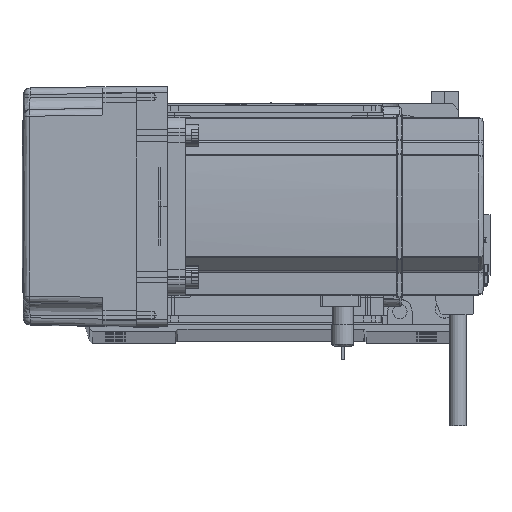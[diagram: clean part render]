
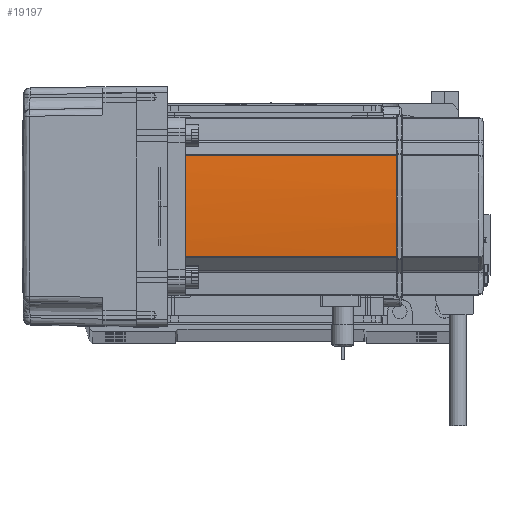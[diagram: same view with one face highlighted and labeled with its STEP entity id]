
A CAD part, top view. The second image highlights one B-rep face of the part: STEP entity #19197.
In plain terms, the highlighted cylindrical face has radius 270 mm (diameter 540 mm), a partial arc.
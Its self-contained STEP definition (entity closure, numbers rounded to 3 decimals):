
#304 = VERTEX_POINT ( 'NONE', #36826 ) ;
#790 = VECTOR ( 'NONE', #34278, 1000. ) ;
#1400 = CARTESIAN_POINT ( 'NONE',  ( -230., 0., 39. ) ) ;
#2841 = DIRECTION ( 'NONE',  ( -1., 0., 0. ) ) ;
#3711 = CARTESIAN_POINT ( 'NONE',  ( 40., -0.042, 134. ) ) ;
#6648 = CARTESIAN_POINT ( 'NONE',  ( 40., -0.127, 134. ) ) ;
#7087 = VERTEX_POINT ( 'NONE', #31909 ) ;
#8175 = CARTESIAN_POINT ( 'NONE',  ( -230., 0., 134. ) ) ;
#9903 = ORIENTED_EDGE ( 'NONE', *, *, #65049, .F. ) ;
#10681 = VERTEX_POINT ( 'NONE', #50392 ) ;
#11224 = DIRECTION ( 'NONE',  ( 0., 0., -1. ) ) ;
#12605 = VERTEX_POINT ( 'NONE', #26722 ) ;
#12882 = EDGE_CURVE ( 'NONE', #7087, #304, #23036, .T. ) ;
#15396 = ORIENTED_EDGE ( 'NONE', *, *, #62532, .T. ) ;
#19140 = ORIENTED_EDGE ( 'NONE', *, *, #33758, .F. ) ;
#19197 = ADVANCED_FACE ( 'NONE', ( #34446 ), #56667, .T. ) ;
#19748 = CARTESIAN_POINT ( 'NONE',  ( 39.042, -22.724, 58. ) ) ;
#20799 = AXIS2_PLACEMENT_3D ( 'NONE', #52430, #38000, #53310 ) ;
#23036 = LINE ( 'NONE', #19748, #790 ) ;
#23689 = DIRECTION ( 'NONE',  ( -1., 0., 0. ) ) ;
#24592 = CARTESIAN_POINT ( 'NONE',  ( 40., 0.042, 134. ) ) ;
#25039 = ORIENTED_EDGE ( 'NONE', *, *, #38124, .T. ) ;
#25110 = CARTESIAN_POINT ( 'NONE',  ( 39.042, 22.724, 58. ) ) ;
#26722 = CARTESIAN_POINT ( 'NONE',  ( 39.042, 22.724, 134. ) ) ;
#30076 = DIRECTION ( 'NONE',  ( 0., 0., 1. ) ) ;
#31909 = CARTESIAN_POINT ( 'NONE',  ( 39.042, -22.724, 134. ) ) ;
#32648 = AXIS2_PLACEMENT_3D ( 'NONE', #33387, #57787, #2841 ) ;
#32939 = CIRCLE ( 'NONE', #45329, 270. ) ;
#33387 = CARTESIAN_POINT ( 'NONE',  ( -230., 0., 58. ) ) ;
#33758 = EDGE_CURVE ( 'NONE', #10681, #304, #56778, .T. ) ;
#34278 = DIRECTION ( 'NONE',  ( 0., 0., -1. ) ) ;
#34446 = FACE_OUTER_BOUND ( 'NONE', #43460, .T. ) ;
#34451 = B_SPLINE_CURVE_WITH_KNOTS ( 'NONE', 3,
 ( #53726, #3711, #24592, #39788 ),
 .UNSPECIFIED., .F., .F.,
 ( 4, 4 ),
 ( 0., 1. ),
 .UNSPECIFIED. ) ;
#36191 = VERTEX_POINT ( 'NONE', #6648 ) ;
#36826 = CARTESIAN_POINT ( 'NONE',  ( 39.042, -22.724, 39. ) ) ;
#37037 = DIRECTION ( 'NONE',  ( -1., 0., 0. ) ) ;
#38000 = DIRECTION ( 'NONE',  ( 0., 0., -1. ) ) ;
#38124 = EDGE_CURVE ( 'NONE', #12605, #49341, #32939, .T. ) ;
#39176 = LINE ( 'NONE', #25110, #45517 ) ;
#39788 = CARTESIAN_POINT ( 'NONE',  ( 40., 0.127, 134. ) ) ;
#43460 = EDGE_LOOP ( 'NONE', ( #53508, #19140, #64331, #25039, #9903, #15396 ) ) ;
#43626 = EDGE_CURVE ( 'NONE', #10681, #12605, #39176, .T. ) ;
#45329 = AXIS2_PLACEMENT_3D ( 'NONE', #8175, #48643, #23689 ) ;
#45517 = VECTOR ( 'NONE', #30076, 1000. ) ;
#46402 = AXIS2_PLACEMENT_3D ( 'NONE', #1400, #11224, #37037 ) ;
#46795 = CARTESIAN_POINT ( 'NONE',  ( 40., 0.127, 134. ) ) ;
#48643 = DIRECTION ( 'NONE',  ( 0., 0., -1. ) ) ;
#48657 = CIRCLE ( 'NONE', #20799, 270. ) ;
#49341 = VERTEX_POINT ( 'NONE', #46795 ) ;
#50392 = CARTESIAN_POINT ( 'NONE',  ( 39.042, 22.724, 39. ) ) ;
#52430 = CARTESIAN_POINT ( 'NONE',  ( -230., 0., 134. ) ) ;
#53310 = DIRECTION ( 'NONE',  ( -1., 0., 0. ) ) ;
#53508 = ORIENTED_EDGE ( 'NONE', *, *, #12882, .T. ) ;
#53726 = CARTESIAN_POINT ( 'NONE',  ( 40., -0.127, 134. ) ) ;
#56667 = CYLINDRICAL_SURFACE ( 'NONE', #32648, 270. ) ;
#56778 = CIRCLE ( 'NONE', #46402, 270. ) ;
#57787 = DIRECTION ( 'NONE',  ( 0., 0., -1. ) ) ;
#62532 = EDGE_CURVE ( 'NONE', #36191, #7087, #48657, .T. ) ;
#64331 = ORIENTED_EDGE ( 'NONE', *, *, #43626, .T. ) ;
#65049 = EDGE_CURVE ( 'NONE', #36191, #49341, #34451, .T. ) ;
